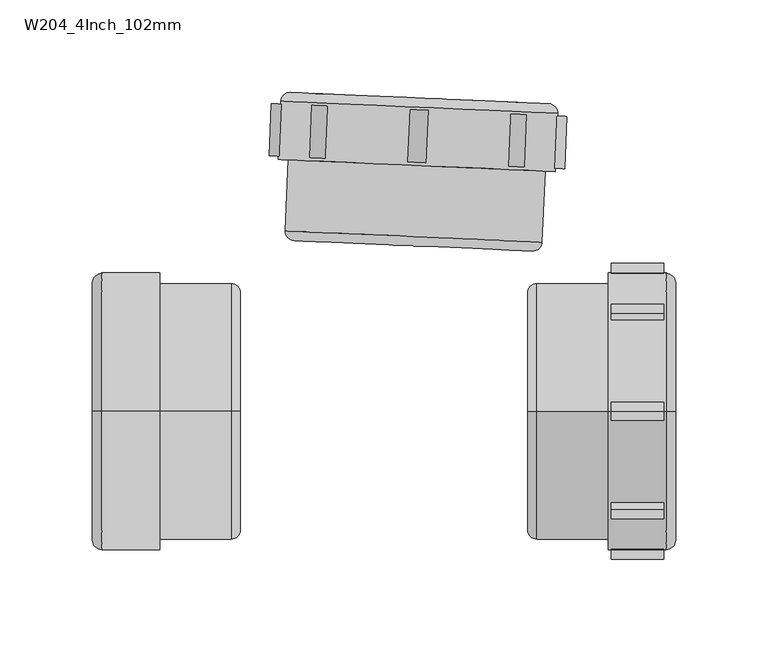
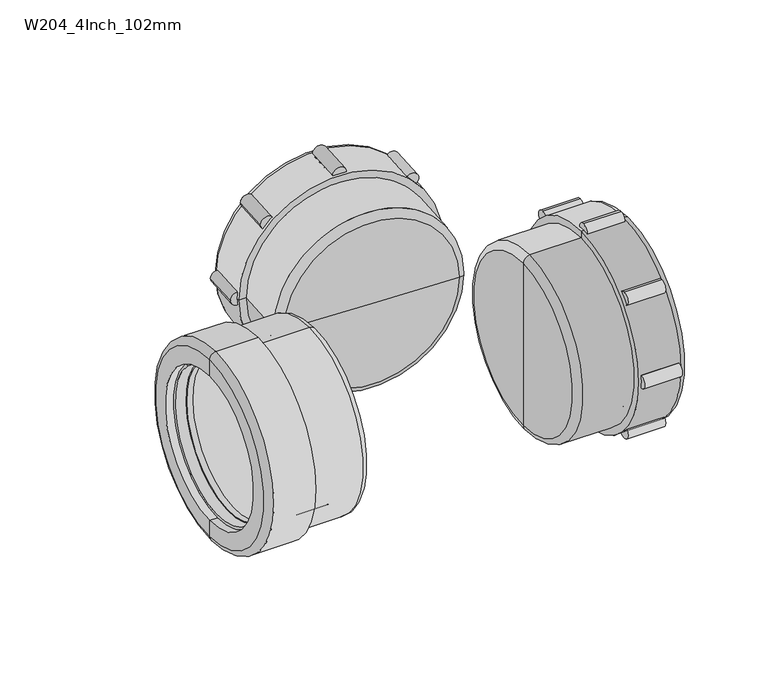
"""IFC4 building model written with IfcOpenShell, lengths in millimetres: pipe fitting geometry, Durapipe_PipeFitting_VulcatheneMechanical_92.5EqualSweepTee_W20 : W204_4Inch_102mm."""

from ifc_helpers import new_model, si_unit, point, frame, frame_2d, origin, place, context, project, spatial, polyline, circle_curve, ellipse_curve, trimmed, segment, composite_curve, outline, extrude, source, transform, mapped, element, save
from ifc_brep_helpers import plane_surface, cylinder_surface, revolved_surface, advanced_brep


def w204_4inch_102mm_7354dc11(model_context):
    return source(origin(), model_context, "Body", "SolidModel", [
        advanced_brep(
        [(-38.2277982, 165.1752117, 45.3962554), (52.4782981, 161.214898, -45.3962554), (46.4736111, 161.4770683, -39.3858477), (-32.2231111, 164.9130414, 39.3858477), (-35.7878187, 143.2479114, 42.0021428), (48.1365134, 139.5836959, -42.0021428), (-37.3973741, 106.383032, 42.0021428), (46.526958, 102.7188165, -42.0021428), (-35.7725765, 106.3120918, 40.3757972), (44.9021603, 102.7897567, -40.3757972), (-33.7660846, 152.26831, 40.3757972), (46.9086521, 148.7459749, -40.3757972), (-32.2825737, 152.2035385, 38.890873), (45.4251412, 148.8107464, -38.890873), (-32.5807901, 156.720846, 39.3858477), (46.1159321, 153.2848729, -39.3858477), (45.6214285, 153.3064634, -38.890873), (-32.0862865, 156.6992555, 38.890873)],
        [
            (0, 1, circle_curve(frame((7.12525, 163.1950548, 0.0), z_axis=(0.04361938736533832, 0.9990482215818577, 0.0), x_axis=(0.7064337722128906, -0.030843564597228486, -0.7071067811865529)), 64.2)),
            (1, 2),
            (2, 3, circle_curve(frame((7.12525, 163.1950548, 0.0), z_axis=(-0.04361938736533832, -0.9990482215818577, 0.0), x_axis=(0.7064337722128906, -0.030843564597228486, -0.7071067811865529)), 55.7)),
            (3, 0),
            (1, 0, circle_curve(frame((7.12525, 163.1950548, 0.0), z_axis=(0.04361938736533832, 0.9990482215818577, 0.0), x_axis=(0.7064337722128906, -0.030843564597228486, -0.7071067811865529)), 64.2)),
            (3, 2, circle_curve(frame((7.12525, 163.1950548, 0.0), z_axis=(-0.04361938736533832, -0.9990482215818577, 0.0), x_axis=(0.7064337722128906, -0.030843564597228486, -0.7071067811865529)), 55.7)),
            (0, 4),
            (4, 5, circle_curve(frame((6.1743473, 141.4158036, 0.0), z_axis=(0.04361938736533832, 0.9990482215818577, 0.0), x_axis=(0.7064337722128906, -0.030843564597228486, -0.7071067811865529)), 59.4)),
            (5, 1),
            (5, 4, circle_curve(frame((6.1743473, 141.4158036, 0.0), z_axis=(0.04361938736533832, 0.9990482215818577, 0.0), x_axis=(0.7064337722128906, -0.030843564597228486, -0.7071067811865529)), 59.4)),
            (6, 7, circle_curve(frame((4.5647919, 104.5509242, 0.0), z_axis=(0.04361938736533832, 0.9990482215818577, 0.0), x_axis=(0.7064337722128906, -0.030843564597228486, -0.7071067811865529)), 59.4)),
            (7, 5),
            (4, 6),
            (7, 6, circle_curve(frame((4.5647919, 104.5509242, 0.0), z_axis=(0.04361938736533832, 0.9990482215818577, 0.0), x_axis=(0.7064337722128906, -0.030843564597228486, -0.7071067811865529)), 59.4)),
            (6, 8),
            (8, 9, circle_curve(frame((4.5647919, 104.5509242, 0.0), z_axis=(0.04361938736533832, 0.9990482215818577, 0.0), x_axis=(0.7064337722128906, -0.030843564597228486, -0.7071067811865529)), 57.1)),
            (9, 7),
            (9, 8, circle_curve(frame((4.5647919, 104.5509242, 0.0), z_axis=(0.04361938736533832, 0.9990482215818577, 0.0), x_axis=(0.7064337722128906, -0.030843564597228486, -0.7071067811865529)), 57.1)),
            (8, 10),
            (10, 11, circle_curve(frame((6.5712838, 150.5071424, 0.0), z_axis=(0.04361938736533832, 0.9990482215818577, 0.0), x_axis=(0.7064337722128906, -0.030843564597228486, -0.7071067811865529)), 57.1)),
            (11, 9),
            (11, 10, circle_curve(frame((6.5712838, 150.5071424, 0.0), z_axis=(0.04361938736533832, 0.9990482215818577, 0.0), x_axis=(0.7064337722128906, -0.030843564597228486, -0.7071067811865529)), 57.1)),
            (10, 12),
            (12, 13, circle_curve(frame((6.5712838, 150.5071424, 0.0), z_axis=(0.04361938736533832, 0.9990482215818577, 0.0), x_axis=(0.7064337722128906, -0.030843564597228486, -0.7071067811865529)), 55.0)),
            (13, 11),
            (13, 12, circle_curve(frame((6.5712838, 150.5071424, 0.0), z_axis=(0.04361938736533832, 0.9990482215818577, 0.0), x_axis=(0.7064337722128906, -0.030843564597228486, -0.7071067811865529)), 55.0)),
            (14, 15, circle_curve(frame((6.767571, 155.0028594, 0.0), z_axis=(0.04361938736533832, 0.9990482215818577, 0.0), x_axis=(0.7064337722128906, -0.030843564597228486, -0.7071067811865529)), 55.7)),
            (15, 16),
            (16, 17, circle_curve(frame((6.767571, 155.0028594, 0.0), z_axis=(-0.04361938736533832, -0.9990482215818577, 0.0), x_axis=(0.7064337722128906, -0.030843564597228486, -0.7071067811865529)), 55.0)),
            (17, 14),
            (15, 14, circle_curve(frame((6.767571, 155.0028594, 0.0), z_axis=(0.04361938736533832, 0.9990482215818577, 0.0), x_axis=(0.7064337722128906, -0.030843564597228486, -0.7071067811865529)), 55.7)),
            (17, 16, circle_curve(frame((6.767571, 155.0028594, 0.0), z_axis=(-0.04361938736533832, -0.9990482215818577, 0.0), x_axis=(0.7064337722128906, -0.030843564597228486, -0.7071067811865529)), 55.0)),
            (2, 15),
            (14, 3),
            (12, 17),
            (16, 13),
        ],
        [
            plane_surface(frame((7.12525, 163.1950548, 0.0), z_axis=(0.043619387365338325, 0.9990482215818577, 0.0), x_axis=(0.7064337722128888, -0.03084356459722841, -0.7071067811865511))),
            revolved_surface(polyline([(52.4782981, 161.214898, -45.3962554), (48.1365134, 139.5836959, -42.0021428)]), (7.3433469, 168.190296, 0.0), (-0.04361938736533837, -0.999048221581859, 0.0)),
            cylinder_surface(frame((4.4744712, 102.4822393, 0.0), z_axis=(-0.04361938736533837, -0.999048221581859, 0.0), x_axis=(0.7064337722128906, -0.030843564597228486, -0.7071067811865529)), 59.4),
            plane_surface(frame((4.5647919, 104.5509242, 0.0), z_axis=(-0.043619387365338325, -0.9990482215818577, 0.0), x_axis=(0.7064337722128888, -0.03084356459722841, -0.7071067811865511))),
            revolved_surface(polyline([(44.90216031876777, 102.78975666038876, -40.37579720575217), (46.908652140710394, 148.74597492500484, -40.37579720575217)]), (4.4124298, 101.0612578, 0.0), (-0.04361938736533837, -0.999048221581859, 0.0)),
            plane_surface(frame((6.5712838, 150.5071424, 0.0), z_axis=(-0.043619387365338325, -0.9990482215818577, 0.0), x_axis=(0.7064337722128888, -0.03084356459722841, -0.7071067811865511))),
            plane_surface(frame((6.767571, 155.0028594, 0.0), z_axis=(0.043619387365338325, 0.9990482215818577, 0.0), x_axis=(0.7064337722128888, -0.03084356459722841, -0.7071067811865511))),
            revolved_surface(polyline([(46.11593209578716, 153.28487285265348, -39.385847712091), (46.47361107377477, 161.47706830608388, -39.385847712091)]), (7.3433469, 168.190296, 0.0), (-0.04361938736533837, -0.999048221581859, 0.0)),
            revolved_surface(polyline([(45.42514119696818, 148.81074635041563, -38.89087296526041), (45.62142844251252, 153.30646340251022, -38.89087296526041)]), (7.1935663, 164.7597566, 0.0), (-0.04361938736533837, -0.999048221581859, 0.0)),
        ],
        [
            (0, [[1, 2, 3, 4]]),
            (0, [[-2, 5, -4, 6]]),
            (1, [[-1, 7, 8, 9]]),
            (1, [[-5, -9, 10, -7]]),
            (2, [[11, 12, -8, 13]]),
            (2, [[-12, 14, -13, -10]]),
            (3, [[-11, 15, 16, 17]]),
            (3, [[-14, -17, 18, -15]]),
            (4, [[19, 20, 21, -16]]),
            (4, [[-19, -18, -21, 22]]),
            (5, [[-20, 23, 24, 25]]),
            (5, [[-22, -25, 26, -23]]),
            (6, [[27, 28, 29, 30]]),
            (6, [[31, -30, 32, -28]]),
            (7, [[-3, 33, -27, 34]]),
            (7, [[-6, -34, -31, -33]]),
            (8, [[35, -29, 36, -24]]),
            (8, [[-35, -26, -36, -32]]),
        ],
    ),
        advanced_brep(
        [(-69.1206721, 136.2952526, 0.0), (80.7365611, 129.7523445, 0.0), (82.1105718, 161.2223635, 0.0), (-67.7466614, 167.7652716, 0.0), (-63.6259069, 136.055346, 0.0), (75.2417959, 129.9922511, 0.0), (-62.5333234, 172.5424158, 0.0), (77.3334276, 166.4357015, 0.0), (64.8453249, 166.9809439, 0.0), (-50.0452206, 171.9971734, 0.0), (-58.8119327, 166.0739344, 0.0), (73.0624326, 160.3161753, 0.0), (70.0919523, 92.2809914, 0.0), (-61.7824129, 98.0387505, 0.0), (-50.3200228, 165.7031696, 0.0), (64.5705227, 160.6869401, 0.0), (-65.3052533, 97.5919894, 0.0), (73.5624495, 91.5288946, 0.0), (-60.5281092, 92.3786514, 0.0), (68.3491114, 86.7517504, 0.0), (3.9105011, 89.5652009, 0.0), (4.1547697, 95.159871, 0.0)],
        [
            (0, 1, circle_curve(frame((5.8079445, 133.0237986, 0.0), z_axis=(0.04361938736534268, 0.9990482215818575, 0.0), x_axis=(0.9990482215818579, -0.0436193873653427, 0.0)), 75.0)),
            (1, 2),
            (2, 3, circle_curve(frame((7.1819552, 164.4938175, 0.0), z_axis=(-0.04361938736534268, -0.9990482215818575, 0.0), x_axis=(0.9990482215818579, -0.0436193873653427, 0.0)), 75.0)),
            (3, 0),
            (1, 0, circle_curve(frame((5.8079445, 133.0237986, 0.0), z_axis=(0.04361938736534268, 0.9990482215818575, 0.0), x_axis=(0.9990482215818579, -0.0436193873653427, 0.0)), 75.0)),
            (3, 2, circle_curve(frame((7.1819552, 164.4938175, 0.0), z_axis=(-0.04361938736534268, -0.9990482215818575, 0.0), x_axis=(0.9990482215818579, -0.0436193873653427, 0.0)), 75.0)),
            (4, 5, circle_curve(frame((5.8079445, 133.0237986, 0.0), z_axis=(0.04361938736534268, 0.9990482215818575, 0.0), x_axis=(0.9990482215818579, -0.0436193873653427, 0.0)), 69.5)),
            (5, 1),
            (0, 4),
            (5, 4, circle_curve(frame((5.8079445, 133.0237986, 0.0), z_axis=(0.04361938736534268, 0.9990482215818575, 0.0), x_axis=(0.9990482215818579, -0.0436193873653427, 0.0)), 69.5)),
            (6, 7, circle_curve(frame((7.4000521, 169.4890586, 0.0), z_axis=(0.04361938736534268, 0.9990482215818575, 0.0), x_axis=(0.9990482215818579, -0.0436193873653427, 0.0)), 70.0)),
            (7, 8),
            (8, 9, circle_curve(frame((7.4000521, 169.4890586, 0.0), z_axis=(-0.04361938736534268, -0.9990482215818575, 0.0), x_axis=(0.9990482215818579, -0.0436193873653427, 0.0)), 57.5)),
            (9, 6),
            (7, 6, circle_curve(frame((7.4000521, 169.4890586, 0.0), z_axis=(0.04361938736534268, 0.9990482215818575, 0.0), x_axis=(0.9990482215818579, -0.0436193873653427, 0.0)), 70.0)),
            (9, 8, circle_curve(frame((7.4000521, 169.4890586, 0.0), z_axis=(-0.04361938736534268, -0.9990482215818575, 0.0), x_axis=(0.9990482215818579, -0.0436193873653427, 0.0)), 57.5)),
            (2, 7, circle_curve(frame((77.1153307, 161.4404604, 0.0), z_axis=(0.0, 0.0, 1.0000000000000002), x_axis=(0.04361938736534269, 0.9990482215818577, 0.0)), 5.0)),
            (6, 3, circle_curve(frame((-62.7514203, 167.5471747, 0.0), z_axis=(0.0, 0.0, 1.0000000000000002), x_axis=(0.04361938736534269, 0.9990482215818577, 0.0)), 5.0)),
            (10, 11, circle_curve(frame((7.12525, 163.1950548, 0.0), z_axis=(0.04361938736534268, 0.9990482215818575, 0.0), x_axis=(0.9990482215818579, -0.0436193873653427, 0.0)), 66.0)),
            (11, 12),
            (12, 13, circle_curve(frame((4.1547697, 95.159871, 0.0), z_axis=(-0.04361938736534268, -0.9990482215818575, 0.0), x_axis=(0.9990482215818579, -0.0436193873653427, 0.0)), 66.0)),
            (13, 10),
            (11, 10, circle_curve(frame((7.12525, 163.1950548, 0.0), z_axis=(0.04361938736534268, 0.9990482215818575, 0.0), x_axis=(0.9990482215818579, -0.0436193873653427, 0.0)), 66.0)),
            (13, 12, circle_curve(frame((4.1547697, 95.159871, 0.0), z_axis=(-0.04361938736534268, -0.9990482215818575, 0.0), x_axis=(0.9990482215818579, -0.0436193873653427, 0.0)), 66.0)),
            (14, 15, circle_curve(frame((7.12525, 163.1950548, 0.0), z_axis=(0.04361938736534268, 0.9990482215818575, 0.0), x_axis=(0.9990482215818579, -0.0436193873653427, 0.0)), 57.5)),
            (15, 11),
            (10, 14),
            (15, 14, circle_curve(frame((7.12525, 163.1950548, 0.0), z_axis=(0.04361938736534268, 0.9990482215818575, 0.0), x_axis=(0.9990482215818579, -0.0436193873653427, 0.0)), 57.5)),
            (8, 15),
            (14, 9),
            (16, 17, circle_curve(frame((4.1285981, 94.560442, 0.0), z_axis=(0.04361938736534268, 0.9990482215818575, 0.0), x_axis=(0.9990482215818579, -0.0436193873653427, 0.0)), 69.5)),
            (17, 5),
            (4, 16),
            (17, 16, circle_curve(frame((4.1285981, 94.560442, 0.0), z_axis=(0.04361938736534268, 0.9990482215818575, 0.0), x_axis=(0.9990482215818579, -0.0436193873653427, 0.0)), 69.5)),
            (18, 19, circle_curve(frame((3.9105011, 89.5652009, 0.0), z_axis=(0.04361938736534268, 0.9990482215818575, 0.0), x_axis=(0.9990482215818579, -0.0436193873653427, 0.0)), 64.5)),
            (19, 17, circle_curve(frame((68.5672084, 91.7469915, 0.0), z_axis=(0.0, 0.0, 1.0000000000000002), x_axis=(0.04361938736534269, 0.9990482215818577, 0.0)), 5.0)),
            (16, 18, circle_curve(frame((-60.3100122, 97.3738925, 0.0), z_axis=(0.0, 0.0, 1.0000000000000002), x_axis=(0.04361938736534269, 0.9990482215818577, 0.0)), 5.0)),
            (19, 18, circle_curve(frame((3.9105011, 89.5652009, 0.0), z_axis=(0.04361938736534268, 0.9990482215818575, 0.0), x_axis=(0.9990482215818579, -0.0436193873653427, 0.0)), 64.5)),
            (20, 19),
            (18, 20),
            (12, 21),
            (21, 13),
        ],
        [
            cylinder_surface(frame((75.4812712, 1728.8053395, 0.0), z_axis=(-0.04361938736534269, -0.9990482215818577, 0.0), x_axis=(0.9990482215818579, -0.0436193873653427, 0.0)), 75.0),
            plane_surface(frame((5.8079445, 133.0237986, 0.0), z_axis=(-0.04361938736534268, -0.9990482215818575, 0.0), x_axis=(0.9990482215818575, -0.04361938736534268, 0.0))),
            plane_surface(frame((7.4000521, 169.4890586, 0.0), z_axis=(0.04361938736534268, 0.9990482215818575, 0.0), x_axis=(0.9990482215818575, -0.04361938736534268, 0.0))),
            revolved_surface(trimmed(ellipse_curve(frame((77.1153307, 161.4404604, 0.0), z_axis=(0.0, 0.0, -1.0000000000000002), x_axis=(0.04361938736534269, 0.9990482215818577, 0.0)), 5.0, 5.0), [point((77.3334276, 166.4357015, 0.0))], [point((82.1105718, 161.2223635, 0.0))], True, "CARTESIAN"), (75.4812712, 1728.8053395, 0.0), (-0.04361938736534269, -0.9990482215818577, 0.0)),
            revolved_surface(polyline([(70.09195228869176, 92.28099137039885, 0.0), (73.06243257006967, 160.3161753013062, 0.0)]), (75.4812712, 1728.8053395, 0.0), (-0.04361938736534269, -0.9990482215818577, 0.0)),
            plane_surface(frame((7.12525, 163.1950548, 0.0), z_axis=(-0.04361938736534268, -0.9990482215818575, 0.0), x_axis=(0.9990482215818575, -0.04361938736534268, 0.0))),
            revolved_surface(polyline([(64.57052268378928, 160.68694002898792, 0.0), (64.8453248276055, 166.9809439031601, 0.0)]), (75.4812712, 1728.8053395, 0.0), (-0.04361938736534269, -0.9990482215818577, 0.0)),
            cylinder_surface(frame((75.4812712, 1728.8053395, 0.0), z_axis=(-0.04361938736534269, -0.9990482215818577, 0.0), x_axis=(0.9990482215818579, -0.0436193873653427, 0.0)), 69.5),
            revolved_surface(trimmed(ellipse_curve(frame((68.5672084, 91.7469915, 0.0), z_axis=(0.0, 0.0, -1.0000000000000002), x_axis=(0.04361938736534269, 0.9990482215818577, 0.0)), 5.0, 5.0), [point((73.5624495, 91.5288946, 0.0))], [point((68.3491114, 86.7517504, 0.0))], True, "CARTESIAN"), (75.4812712, 1728.8053395, 0.0), (-0.04361938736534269, -0.9990482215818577, 0.0)),
            plane_surface(frame((3.9105011, 89.5652009, 0.0), z_axis=(-0.04361938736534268, -0.9990482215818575, 0.0), x_axis=(0.9990482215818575, -0.04361938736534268, 0.0))),
            plane_surface(frame((4.1547697, 95.159871, 0.0), z_axis=(0.04361938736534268, 0.9990482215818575, 0.0), x_axis=(0.9990482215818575, -0.04361938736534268, 0.0))),
        ],
        [
            (0, [[1, 2, 3, 4]]),
            (0, [[5, -4, 6, -2]]),
            (1, [[7, 8, -1, 9]]),
            (1, [[10, -9, -5, -8]]),
            (2, [[11, 12, 13, 14]]),
            (2, [[15, -14, 16, -12]]),
            (3, [[-3, 17, -11, 18]]),
            (3, [[-6, -18, -15, -17]]),
            (4, [[19, 20, 21, 22]]),
            (4, [[23, -22, 24, -20]]),
            (5, [[25, 26, -19, 27]]),
            (5, [[28, -27, -23, -26]]),
            (6, [[-13, 29, -25, 30]]),
            (6, [[-16, -30, -28, -29]]),
            (7, [[31, 32, -7, 33]]),
            (7, [[34, -33, -10, -32]]),
            (8, [[35, 36, -31, 37]]),
            (8, [[38, -37, -34, -36]]),
            (9, [[39, -35, 40]]),
            (9, [[-40, -38, -39]]),
            (10, [[-21, 41, 42]]),
            (10, [[-24, -42, -41]]),
        ],
    ),
        extrude(outline(composite_curve([segment(trimmed(circle_curve(frame_2d((0.0, -5.0)), 5.0), [point((0.0, -10.0))], [point((0.0, 0.0))], False, "CARTESIAN"), True, "CONTINUOUS"), segment(trimmed(circle_curve(frame_2d((0.0, -5.0)), 5.0), [point((0.0, 0.0))], [point((0.0, -10.0))], False, "CARTESIAN"), True, "CONTINUOUS")], self_intersect=False)), frame((10.8817005, 134.6039884, -75.0), z_axis=(0.04361938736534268, 0.9990482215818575, 0.0), x_axis=(0.0, 0.0, 1.0)), (0.0, 0.0, 1.0), 28.2),
        extrude(outline(composite_curve([segment(trimmed(circle_curve(frame_2d((21.9669914, 48.0330086)), 5.0), [point((21.9669914, 43.0330086))], [point((21.9669914, 53.0330086))], False, "CARTESIAN"), True, "CONTINUOUS"), segment(trimmed(circle_curve(frame_2d((21.9669914, 48.0330086)), 5.0), [point((21.9669914, 53.0330086))], [point((21.9669914, 43.0330086))], False, "CARTESIAN"), True, "CONTINUOUS")], self_intersect=False)), frame((10.8817005, 134.6039884, -75.0), z_axis=(0.04361938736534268, 0.9990482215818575, 0.0), x_axis=(0.0, 0.0, 1.0)), (0.0, 0.0, 1.0), 28.2),
        extrude(outline(composite_curve([segment(trimmed(circle_curve(frame_2d((75.0, 70.0)), 5.0), [point((75.0, 65.0))], [point((75.0, 75.0))], False, "CARTESIAN"), True, "CONTINUOUS"), segment(trimmed(circle_curve(frame_2d((75.0, 70.0)), 5.0), [point((75.0, 75.0))], [point((75.0, 65.0))], False, "CARTESIAN"), True, "CONTINUOUS")], self_intersect=False)), frame((10.8817005, 134.6039884, -75.0), z_axis=(0.04361938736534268, 0.9990482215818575, 0.0), x_axis=(0.0, 0.0, 1.0)), (0.0, 0.0, 1.0), 28.2),
        extrude(outline(composite_curve([segment(trimmed(circle_curve(frame_2d((128.0330086, 48.0330086)), 5.0), [point((128.0330086, 43.0330086))], [point((128.0330086, 53.0330086))], False, "CARTESIAN"), True, "CONTINUOUS"), segment(trimmed(circle_curve(frame_2d((128.0330086, 48.0330086)), 5.0), [point((128.0330086, 53.0330086))], [point((128.0330086, 43.0330086))], False, "CARTESIAN"), True, "CONTINUOUS")], self_intersect=False)), frame((10.8817005, 134.6039884, -75.0), z_axis=(0.04361938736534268, 0.9990482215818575, 0.0), x_axis=(0.0, 0.0, 1.0)), (0.0, 0.0, 1.0), 28.2),
        extrude(outline(composite_curve([segment(trimmed(circle_curve(frame_2d((150.0, -5.0)), 5.0), [point((150.0, -10.0))], [point((150.0, 0.0))], False, "CARTESIAN"), True, "CONTINUOUS"), segment(trimmed(circle_curve(frame_2d((150.0, -5.0)), 5.0), [point((150.0, 0.0))], [point((150.0, -10.0))], False, "CARTESIAN"), True, "CONTINUOUS")], self_intersect=False)), frame((10.8817005, 134.6039884, -75.0), z_axis=(0.04361938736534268, 0.9990482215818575, 0.0), x_axis=(0.0, 0.0, 1.0)), (0.0, 0.0, 1.0), 28.2),
        extrude(outline(composite_curve([segment(trimmed(circle_curve(frame_2d((128.0330086, -58.0330086)), 5.0), [point((128.0330086, -63.0330087))], [point((128.0330086, -53.0330086))], False, "CARTESIAN"), True, "CONTINUOUS"), segment(trimmed(circle_curve(frame_2d((128.0330086, -58.0330086)), 5.0), [point((128.0330086, -53.0330086))], [point((128.0330086, -63.0330087))], False, "CARTESIAN"), True, "CONTINUOUS")], self_intersect=False)), frame((10.8817005, 134.6039884, -75.0), z_axis=(0.04361938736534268, 0.9990482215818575, 0.0), x_axis=(0.0, 0.0, 1.0)), (0.0, 0.0, 1.0), 28.2),
        extrude(outline(composite_curve([segment(trimmed(circle_curve(frame_2d((75.0, -80.0)), 5.0), [point((75.0, -85.0000001))], [point((75.0, -75.0))], False, "CARTESIAN"), True, "CONTINUOUS"), segment(trimmed(circle_curve(frame_2d((75.0, -80.0)), 5.0), [point((75.0, -75.0))], [point((75.0, -85.0000001))], False, "CARTESIAN"), True, "CONTINUOUS")], self_intersect=False)), frame((10.8817005, 134.6039884, -75.0), z_axis=(0.04361938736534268, 0.9990482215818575, 0.0), x_axis=(0.0, 0.0, 1.0)), (0.0, 0.0, 1.0), 28.2),
        extrude(outline(composite_curve([segment(trimmed(circle_curve(frame_2d((21.9669914, -58.0330086)), 5.0), [point((21.9669914, -63.0330087))], [point((21.9669914, -53.0330086))], False, "CARTESIAN"), True, "CONTINUOUS"), segment(trimmed(circle_curve(frame_2d((21.9669914, -58.0330086)), 5.0), [point((21.9669914, -53.0330086))], [point((21.9669914, -63.0330087))], False, "CARTESIAN"), True, "CONTINUOUS")], self_intersect=False)), frame((10.8817005, 134.6039884, -75.0), z_axis=(0.04361938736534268, 0.9990482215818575, 0.0), x_axis=(0.0, 0.0, 1.0)), (0.0, 0.0, 1.0), 28.2),
        advanced_brep(
        [(139.5494716, 45.3962554, -45.3962554), (139.5494716, -45.3962554, 45.3962554), (139.5494716, -39.3858477, 39.3858477), (139.5494716, 39.3858477, -39.3858477), (117.7494716, 42.0021428, -42.0021428), (117.7494716, -42.0021428, 42.0021428), (80.8494716, 42.0021428, -42.0021428), (80.8494716, -42.0021428, 42.0021428), (80.8494716, 40.3757972, -40.3757972), (80.8494716, -40.3757972, 40.3757972), (126.8494716, 40.3757972, -40.3757972), (126.8494716, -40.3757972, 40.3757972), (126.8494716, 38.890873, -38.890873), (126.8494716, -38.890873, 38.890873), (131.3494716, 39.3858477, -39.3858477), (131.3494716, -39.3858477, 39.3858477), (131.3494716, -38.890873, 38.890873), (131.3494716, 38.890873, -38.890873)],
        [
            (0, 1, circle_curve(frame((139.5494716, 0.0, 0.0), z_axis=(1.0, 0.0, 0.0), x_axis=(0.0, -0.7071067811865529, 0.7071067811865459)), 64.2)),
            (1, 2),
            (2, 3, circle_curve(frame((139.5494716, 0.0, 0.0), z_axis=(-1.0, 0.0, 0.0), x_axis=(0.0, -0.7071067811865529, 0.7071067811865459)), 55.7)),
            (3, 0),
            (1, 0, circle_curve(frame((139.5494716, 0.0, 0.0), z_axis=(1.0, 0.0, 0.0), x_axis=(0.0, -0.7071067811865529, 0.7071067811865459)), 64.2)),
            (3, 2, circle_curve(frame((139.5494716, 0.0, 0.0), z_axis=(-1.0, 0.0, 0.0), x_axis=(0.0, -0.7071067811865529, 0.7071067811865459)), 55.7)),
            (0, 4),
            (4, 5, circle_curve(frame((117.7494716, 0.0, 0.0), z_axis=(1.0, 0.0, 0.0), x_axis=(0.0, -0.7071067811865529, 0.7071067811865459)), 59.4)),
            (5, 1),
            (5, 4, circle_curve(frame((117.7494716, 0.0, 0.0), z_axis=(1.0, 0.0, 0.0), x_axis=(0.0, -0.7071067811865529, 0.7071067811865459)), 59.4)),
            (6, 7, circle_curve(frame((80.8494716, 0.0, 0.0), z_axis=(1.0, 0.0, 0.0), x_axis=(0.0, -0.7071067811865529, 0.7071067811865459)), 59.4)),
            (7, 5),
            (4, 6),
            (7, 6, circle_curve(frame((80.8494716, 0.0, 0.0), z_axis=(1.0, 0.0, 0.0), x_axis=(0.0, -0.7071067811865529, 0.7071067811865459)), 59.4)),
            (6, 8),
            (8, 9, circle_curve(frame((80.8494716, 0.0, 0.0), z_axis=(1.0, 0.0, 0.0), x_axis=(0.0, -0.7071067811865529, 0.7071067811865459)), 57.1)),
            (9, 7),
            (9, 8, circle_curve(frame((80.8494716, 0.0, 0.0), z_axis=(1.0, 0.0, 0.0), x_axis=(0.0, -0.7071067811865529, 0.7071067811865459)), 57.1)),
            (8, 10),
            (10, 11, circle_curve(frame((126.8494716, 0.0, 0.0), z_axis=(1.0, 0.0, 0.0), x_axis=(0.0, -0.7071067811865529, 0.7071067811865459)), 57.1)),
            (11, 9),
            (11, 10, circle_curve(frame((126.8494716, 0.0, 0.0), z_axis=(1.0, 0.0, 0.0), x_axis=(0.0, -0.7071067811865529, 0.7071067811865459)), 57.1)),
            (10, 12),
            (12, 13, circle_curve(frame((126.8494716, 0.0, 0.0), z_axis=(1.0, 0.0, 0.0), x_axis=(0.0, -0.7071067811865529, 0.7071067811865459)), 55.0)),
            (13, 11),
            (13, 12, circle_curve(frame((126.8494716, 0.0, 0.0), z_axis=(1.0, 0.0, 0.0), x_axis=(0.0, -0.7071067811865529, 0.7071067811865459)), 55.0)),
            (14, 15, circle_curve(frame((131.3494716, 0.0, 0.0), z_axis=(1.0, 0.0, 0.0), x_axis=(0.0, -0.7071067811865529, 0.7071067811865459)), 55.7)),
            (15, 16),
            (16, 17, circle_curve(frame((131.3494716, 0.0, 0.0), z_axis=(-1.0, 0.0, 0.0), x_axis=(0.0, -0.7071067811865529, 0.7071067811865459)), 55.0)),
            (17, 14),
            (15, 14, circle_curve(frame((131.3494716, 0.0, 0.0), z_axis=(1.0, 0.0, 0.0), x_axis=(0.0, -0.7071067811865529, 0.7071067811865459)), 55.7)),
            (17, 16, circle_curve(frame((131.3494716, 0.0, 0.0), z_axis=(-1.0, 0.0, 0.0), x_axis=(0.0, -0.7071067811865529, 0.7071067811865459)), 55.0)),
            (2, 15),
            (14, 3),
            (12, 17),
            (16, 13),
        ],
        [
            plane_surface(frame((139.5494716, 0.0, 0.0), z_axis=(1.0, 0.0, 0.0), x_axis=(0.0, -0.707106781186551, 0.707106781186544))),
            revolved_surface(polyline([(139.5494716, -45.3962554, 45.3962554), (117.7494716, -42.0021428, 42.0021428)]), (144.5494716, 0.0, 0.0), (-1.0000000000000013, 0.0, 0.0)),
            cylinder_surface(frame((78.7788159, 0.0, 0.0), z_axis=(-1.0000000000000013, 0.0, 0.0), x_axis=(0.0, -0.7071067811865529, 0.7071067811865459)), 59.4),
            plane_surface(frame((80.8494716, 0.0, 0.0), z_axis=(-1.0, 0.0, 0.0), x_axis=(0.0, -0.707106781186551, 0.707106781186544))),
            revolved_surface(polyline([(80.84947160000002, -40.37579720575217, 40.37579720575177), (126.84947160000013, -40.37579720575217, 40.37579720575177)]), (77.3564807, 0.0, 0.0), (-1.0000000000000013, 0.0, 0.0)),
            plane_surface(frame((126.8494716, 0.0, 0.0), z_axis=(-1.0, 0.0, 0.0), x_axis=(0.0, -0.707106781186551, 0.707106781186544))),
            plane_surface(frame((131.3494716, 0.0, 0.0), z_axis=(1.0, 0.0, 0.0), x_axis=(0.0, -0.707106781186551, 0.707106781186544))),
            revolved_surface(polyline([(131.34947159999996, -39.385847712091, 39.38584771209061), (139.5494716, -39.385847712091, 39.38584771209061)]), (144.5494716, 0.0, 0.0), (-1.0000000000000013, 0.0, 0.0)),
            revolved_surface(polyline([(126.84947159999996, -38.89087296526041, 38.89087296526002), (131.34947159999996, -38.89087296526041, 38.89087296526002)]), (141.1156641, 0.0, 0.0), (-1.0000000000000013, 0.0, 0.0)),
        ],
        [
            (0, [[1, 2, 3, 4]]),
            (0, [[-2, 5, -4, 6]]),
            (1, [[-1, 7, 8, 9]]),
            (1, [[-5, -9, 10, -7]]),
            (2, [[11, 12, -8, 13]]),
            (2, [[-12, 14, -13, -10]]),
            (3, [[-11, 15, 16, 17]]),
            (3, [[-14, -17, 18, -15]]),
            (4, [[19, 20, 21, -16]]),
            (4, [[-19, -18, -21, 22]]),
            (5, [[-20, 23, 24, 25]]),
            (5, [[-22, -25, 26, -23]]),
            (6, [[27, 28, 29, 30]]),
            (6, [[31, -30, 32, -28]]),
            (7, [[-3, 33, -27, 34]]),
            (7, [[-6, -34, -31, -33]]),
            (8, [[35, -29, 36, -24]]),
            (8, [[-35, -26, -36, -32]]),
        ],
    ),
        advanced_brep(
        [(109.3494716, 0.0, -75.0), (109.3494716, 0.0, 75.0), (140.8494716, 0.0, 75.0), (140.8494716, 0.0, -75.0), (109.3494716, 0.0, -69.5), (109.3494716, 0.0, 69.5), (145.8494716, 0.0, -70.0), (145.8494716, 0.0, 70.0), (145.8494716, 0.0, 57.5), (145.8494716, 0.0, -57.5), (139.5494716, 0.0, -66.0), (139.5494716, 0.0, 66.0), (71.4494716, 0.0, 66.0), (71.4494716, 0.0, -66.0), (139.5494716, 0.0, -57.5), (139.5494716, 0.0, 57.5), (70.8494716, 0.0, -69.5), (70.8494716, 0.0, 69.5), (65.8494716, 0.0, -64.5), (65.8494716, 0.0, 64.5), (65.8494716, 0.0, 0.0), (71.4494716, 0.0, 0.0)],
        [
            (0, 1, circle_curve(frame((109.3494716, 0.0, 0.0), z_axis=(1.0, 0.0, 0.0), x_axis=(0.0, 0.0, 1.0000000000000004)), 75.0)),
            (1, 2),
            (2, 3, circle_curve(frame((140.8494716, 0.0, 0.0), z_axis=(-1.0, 0.0, 0.0), x_axis=(0.0, 0.0, 1.0000000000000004)), 75.0)),
            (3, 0),
            (1, 0, circle_curve(frame((109.3494716, 0.0, 0.0), z_axis=(1.0, 0.0, 0.0), x_axis=(0.0, 0.0, 1.0000000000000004)), 75.0)),
            (3, 2, circle_curve(frame((140.8494716, 0.0, 0.0), z_axis=(-1.0, 0.0, 0.0), x_axis=(0.0, 0.0, 1.0000000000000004)), 75.0)),
            (4, 5, circle_curve(frame((109.3494716, 0.0, 0.0), z_axis=(1.0, 0.0, 0.0), x_axis=(0.0, 0.0, 1.0000000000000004)), 69.5)),
            (5, 1),
            (0, 4),
            (5, 4, circle_curve(frame((109.3494716, 0.0, 0.0), z_axis=(1.0, 0.0, 0.0), x_axis=(0.0, 0.0, 1.0000000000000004)), 69.5)),
            (6, 7, circle_curve(frame((145.8494716, 0.0, 0.0), z_axis=(1.0, 0.0, 0.0), x_axis=(0.0, 0.0, 1.0000000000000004)), 70.0)),
            (7, 8),
            (8, 9, circle_curve(frame((145.8494716, 0.0, 0.0), z_axis=(-1.0, 0.0, 0.0), x_axis=(0.0, 0.0, 1.0000000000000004)), 57.5)),
            (9, 6),
            (7, 6, circle_curve(frame((145.8494716, 0.0, 0.0), z_axis=(1.0, 0.0, 0.0), x_axis=(0.0, 0.0, 1.0000000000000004)), 70.0)),
            (9, 8, circle_curve(frame((145.8494716, 0.0, 0.0), z_axis=(-1.0, 0.0, 0.0), x_axis=(0.0, 0.0, 1.0000000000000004)), 57.5)),
            (2, 7, circle_curve(frame((140.8494716, 0.0, 70.0), z_axis=(0.0, 1.0000000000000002, 0.0), x_axis=(1.0000000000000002, 0.0, 0.0)), 5.0)),
            (6, 3, circle_curve(frame((140.8494716, 0.0, -70.0), z_axis=(0.0, 1.0000000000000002, 0.0), x_axis=(1.0000000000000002, 0.0, 0.0)), 5.0)),
            (10, 11, circle_curve(frame((139.5494716, 0.0, 0.0), z_axis=(1.0, 0.0, 0.0), x_axis=(0.0, 0.0, 1.0000000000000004)), 66.0)),
            (11, 12),
            (12, 13, circle_curve(frame((71.4494716, 0.0, 0.0), z_axis=(-1.0, 0.0, 0.0), x_axis=(0.0, 0.0, 1.0000000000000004)), 66.0)),
            (13, 10),
            (11, 10, circle_curve(frame((139.5494716, 0.0, 0.0), z_axis=(1.0, 0.0, 0.0), x_axis=(0.0, 0.0, 1.0000000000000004)), 66.0)),
            (13, 12, circle_curve(frame((71.4494716, 0.0, 0.0), z_axis=(-1.0, 0.0, 0.0), x_axis=(0.0, 0.0, 1.0000000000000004)), 66.0)),
            (14, 15, circle_curve(frame((139.5494716, 0.0, 0.0), z_axis=(1.0, 0.0, 0.0), x_axis=(0.0, 0.0, 1.0000000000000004)), 57.5)),
            (15, 11),
            (10, 14),
            (15, 14, circle_curve(frame((139.5494716, 0.0, 0.0), z_axis=(1.0, 0.0, 0.0), x_axis=(0.0, 0.0, 1.0000000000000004)), 57.5)),
            (8, 15),
            (14, 9),
            (16, 17, circle_curve(frame((70.8494716, 0.0, 0.0), z_axis=(1.0, 0.0, 0.0), x_axis=(0.0, 0.0, 1.0000000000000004)), 69.5)),
            (17, 5),
            (4, 16),
            (17, 16, circle_curve(frame((70.8494716, 0.0, 0.0), z_axis=(1.0, 0.0, 0.0), x_axis=(0.0, 0.0, 1.0000000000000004)), 69.5)),
            (18, 19, circle_curve(frame((65.8494716, 0.0, 0.0), z_axis=(1.0, 0.0, 0.0), x_axis=(0.0, 0.0, 1.0000000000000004)), 64.5)),
            (19, 17, circle_curve(frame((70.8494716, 0.0, 64.5), z_axis=(0.0, 1.0000000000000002, 0.0), x_axis=(1.0000000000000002, 0.0, 0.0)), 5.0)),
            (16, 18, circle_curve(frame((70.8494716, 0.0, -64.5), z_axis=(0.0, 1.0000000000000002, 0.0), x_axis=(1.0000000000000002, 0.0, 0.0)), 5.0)),
            (19, 18, circle_curve(frame((65.8494716, 0.0, 0.0), z_axis=(1.0, 0.0, 0.0), x_axis=(0.0, 0.0, 1.0000000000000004)), 64.5)),
            (20, 19),
            (18, 20),
            (12, 21),
            (21, 13),
        ],
        [
            cylinder_surface(frame((1706.65129, 0.0, 0.0), z_axis=(-1.0000000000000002, 0.0, 0.0), x_axis=(0.0, 0.0, 1.0000000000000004)), 75.0),
            plane_surface(frame((109.3494716, 0.0, 0.0), z_axis=(-1.0, 0.0, 0.0), x_axis=(0.0, 0.0, 1.0))),
            plane_surface(frame((145.8494716, 0.0, 0.0), z_axis=(1.0, 0.0, 0.0), x_axis=(0.0, 0.0, 1.0))),
            revolved_surface(trimmed(ellipse_curve(frame((140.8494716, 0.0, 70.0), z_axis=(0.0, -1.0000000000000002, 0.0), x_axis=(1.0000000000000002, 0.0, 0.0)), 5.0, 5.0), [point((145.8494716, 0.0, 70.0))], [point((140.8494716, 0.0, 75.0))], True, "CARTESIAN"), (1706.65129, 0.0, 0.0), (-1.0000000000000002, 0.0, 0.0)),
            revolved_surface(polyline([(71.44947159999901, 0.0, 66.00000000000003), (139.54947159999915, 0.0, 66.00000000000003)]), (1706.65129, 0.0, 0.0), (-1.0000000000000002, 0.0, 0.0)),
            plane_surface(frame((139.5494716, 0.0, 0.0), z_axis=(-1.0, 0.0, 0.0), x_axis=(0.0, 0.0, 1.0))),
            revolved_surface(polyline([(139.54947159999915, 0.0, 57.50000000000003), (145.8494715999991, 0.0, 57.50000000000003)]), (1706.65129, 0.0, 0.0), (-1.0000000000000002, 0.0, 0.0)),
            cylinder_surface(frame((1706.65129, 0.0, 0.0), z_axis=(-1.0000000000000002, 0.0, 0.0), x_axis=(0.0, 0.0, 1.0000000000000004)), 69.5),
            revolved_surface(trimmed(ellipse_curve(frame((70.8494716, 0.0, 64.5), z_axis=(0.0, -1.0000000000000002, 0.0), x_axis=(1.0000000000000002, 0.0, 0.0)), 5.0, 5.0), [point((70.8494716, 0.0, 69.5))], [point((65.8494716, 0.0, 64.5))], True, "CARTESIAN"), (1706.65129, 0.0, 0.0), (-1.0000000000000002, 0.0, 0.0)),
            plane_surface(frame((65.8494716, 0.0, 0.0), z_axis=(-1.0, 0.0, 0.0), x_axis=(0.0, 0.0, 1.0))),
            plane_surface(frame((71.4494716, 0.0, 0.0), z_axis=(1.0, 0.0, 0.0), x_axis=(0.0, 0.0, 1.0))),
        ],
        [
            (0, [[1, 2, 3, 4]]),
            (0, [[5, -4, 6, -2]]),
            (1, [[7, 8, -1, 9]]),
            (1, [[10, -9, -5, -8]]),
            (2, [[11, 12, 13, 14]]),
            (2, [[15, -14, 16, -12]]),
            (3, [[-3, 17, -11, 18]]),
            (3, [[-6, -18, -15, -17]]),
            (4, [[19, 20, 21, 22]]),
            (4, [[23, -22, 24, -20]]),
            (5, [[25, 26, -19, 27]]),
            (5, [[28, -27, -23, -26]]),
            (6, [[-13, 29, -25, 30]]),
            (6, [[-16, -30, -28, -29]]),
            (7, [[31, 32, -7, 33]]),
            (7, [[34, -33, -10, -32]]),
            (8, [[35, 36, -31, 37]]),
            (8, [[38, -37, -34, -36]]),
            (9, [[39, -35, 40]]),
            (9, [[-40, -38, -39]]),
            (10, [[-21, 41, 42]]),
            (10, [[-24, -42, -41]]),
        ],
    ),
        extrude(outline(composite_curve([segment(trimmed(circle_curve(frame_2d((-75.0, 0.0)), 5.0), [point((-75.0, -5.0))], [point((-75.0, 5.0))], False, "CARTESIAN"), True, "CONTINUOUS"), segment(trimmed(circle_curve(frame_2d((-75.0, 0.0)), 5.0), [point((-75.0, 5.0))], [point((-75.0, -5.0))], False, "CARTESIAN"), True, "CONTINUOUS")], self_intersect=False)), frame((111.1494716, 0.0, 0.0), z_axis=(1.0, 0.0, 0.0), x_axis=(0.0, 1.0, 0.0)), (0.0, 0.0, 1.0), 28.2),
        extrude(outline(composite_curve([segment(trimmed(circle_curve(frame_2d((-53.0330086, 53.0330086)), 5.0), [point((-53.0330086, 48.0330086))], [point((-53.0330086, 58.0330086))], False, "CARTESIAN"), True, "CONTINUOUS"), segment(trimmed(circle_curve(frame_2d((-53.0330086, 53.0330086)), 5.0), [point((-53.0330086, 58.0330086))], [point((-53.0330086, 48.0330086))], False, "CARTESIAN"), True, "CONTINUOUS")], self_intersect=False)), frame((111.1494716, 0.0, 0.0), z_axis=(1.0, 0.0, 0.0), x_axis=(0.0, 1.0, 0.0)), (0.0, 0.0, 1.0), 28.2),
        extrude(outline(composite_curve([segment(trimmed(circle_curve(frame_2d((0.0, 75.0)), 5.0), [point((0.0, 70.0))], [point((0.0, 80.0))], False, "CARTESIAN"), True, "CONTINUOUS"), segment(trimmed(circle_curve(frame_2d((0.0, 75.0)), 5.0), [point((0.0, 80.0))], [point((0.0, 70.0))], False, "CARTESIAN"), True, "CONTINUOUS")], self_intersect=False)), frame((111.1494716, 0.0, 0.0), z_axis=(1.0, 0.0, 0.0), x_axis=(0.0, 1.0, 0.0)), (0.0, 0.0, 1.0), 28.2),
        extrude(outline(composite_curve([segment(trimmed(circle_curve(frame_2d((53.0330086, 53.0330086)), 5.0), [point((53.0330086, 48.0330086))], [point((53.0330086, 58.0330086))], False, "CARTESIAN"), True, "CONTINUOUS"), segment(trimmed(circle_curve(frame_2d((53.0330086, 53.0330086)), 5.0), [point((53.0330086, 58.0330086))], [point((53.0330086, 48.0330086))], False, "CARTESIAN"), True, "CONTINUOUS")], self_intersect=False)), frame((111.1494716, 0.0, 0.0), z_axis=(1.0, 0.0, 0.0), x_axis=(0.0, 1.0, 0.0)), (0.0, 0.0, 1.0), 28.2),
        extrude(outline(composite_curve([segment(trimmed(circle_curve(frame_2d((75.0, 0.0)), 5.0), [point((75.0, -5.0))], [point((75.0, 5.0))], False, "CARTESIAN"), True, "CONTINUOUS"), segment(trimmed(circle_curve(frame_2d((75.0, 0.0)), 5.0), [point((75.0, 5.0))], [point((75.0, -5.0))], False, "CARTESIAN"), True, "CONTINUOUS")], self_intersect=False)), frame((111.1494716, 0.0, 0.0), z_axis=(1.0, 0.0, 0.0), x_axis=(0.0, 1.0, 0.0)), (0.0, 0.0, 1.0), 28.2),
        extrude(outline(composite_curve([segment(trimmed(circle_curve(frame_2d((53.0330086, -53.0330086)), 5.0), [point((53.0330086, -58.0330086))], [point((53.0330086, -48.0330086))], False, "CARTESIAN"), True, "CONTINUOUS"), segment(trimmed(circle_curve(frame_2d((53.0330086, -53.0330086)), 5.0), [point((53.0330086, -48.0330086))], [point((53.0330086, -58.0330086))], False, "CARTESIAN"), True, "CONTINUOUS")], self_intersect=False)), frame((111.1494716, 0.0, 0.0), z_axis=(1.0, 0.0, 0.0), x_axis=(0.0, 1.0, 0.0)), (0.0, 0.0, 1.0), 28.2),
        extrude(outline(composite_curve([segment(trimmed(circle_curve(frame_2d((0.0, -75.0)), 5.0), [point((0.0, -80.0))], [point((0.0, -70.0))], False, "CARTESIAN"), True, "CONTINUOUS"), segment(trimmed(circle_curve(frame_2d((0.0, -75.0)), 5.0), [point((0.0, -70.0))], [point((0.0, -80.0))], False, "CARTESIAN"), True, "CONTINUOUS")], self_intersect=False)), frame((111.1494716, 0.0, 0.0), z_axis=(1.0, 0.0, 0.0), x_axis=(0.0, 1.0, 0.0)), (0.0, 0.0, 1.0), 28.2),
        extrude(outline(composite_curve([segment(trimmed(circle_curve(frame_2d((-53.0330086, -53.0330086)), 5.0), [point((-53.0330086, -58.0330086))], [point((-53.0330086, -48.0330086))], False, "CARTESIAN"), True, "CONTINUOUS"), segment(trimmed(circle_curve(frame_2d((-53.0330086, -53.0330086)), 5.0), [point((-53.0330086, -48.0330086))], [point((-53.0330086, -58.0330086))], False, "CARTESIAN"), True, "CONTINUOUS")], self_intersect=False)), frame((111.1494716, 0.0, 0.0), z_axis=(1.0, 0.0, 0.0), x_axis=(0.0, 1.0, 0.0)), (0.0, 0.0, 1.0), 28.2),
        advanced_brep(
        [(-163.3505284, -45.3962554, -45.3962554), (-163.3505284, 45.3962554, 45.3962554), (-163.3505284, 39.3858477, 39.3858477), (-163.3505284, -39.3858477, -39.3858477), (-141.5505284, -42.0021428, -42.0021428), (-141.5505284, 42.0021428, 42.0021428), (-104.6505284, -42.0021428, -42.0021428), (-104.6505284, 42.0021428, 42.0021428), (-104.6505284, -40.3757972, -40.3757972), (-104.6505284, 40.3757972, 40.3757972), (-150.6505284, -40.3757972, -40.3757972), (-150.6505284, 40.3757972, 40.3757972), (-150.6505284, -38.890873, -38.890873), (-150.6505284, 38.890873, 38.890873), (-155.1505284, -39.3858477, -39.3858477), (-155.1505284, 39.3858477, 39.3858477), (-155.1505284, 38.890873, 38.890873), (-155.1505284, -38.890873, -38.890873)],
        [
            (0, 1, circle_curve(frame((-163.3505284, 0.0, 0.0), z_axis=(-1.0, 0.0, 0.0), x_axis=(0.0, 0.7071067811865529, 0.7071067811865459)), 64.2)),
            (1, 2),
            (2, 3, circle_curve(frame((-163.3505284, 0.0, 0.0), z_axis=(1.0, 0.0, 0.0), x_axis=(0.0, 0.7071067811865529, 0.7071067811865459)), 55.7)),
            (3, 0),
            (1, 0, circle_curve(frame((-163.3505284, 0.0, 0.0), z_axis=(-1.0, 0.0, 0.0), x_axis=(0.0, 0.7071067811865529, 0.7071067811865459)), 64.2)),
            (3, 2, circle_curve(frame((-163.3505284, 0.0, 0.0), z_axis=(1.0, 0.0, 0.0), x_axis=(0.0, 0.7071067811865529, 0.7071067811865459)), 55.7)),
            (0, 4),
            (4, 5, circle_curve(frame((-141.5505284, 0.0, 0.0), z_axis=(-1.0, 0.0, 0.0), x_axis=(0.0, 0.7071067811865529, 0.7071067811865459)), 59.4)),
            (5, 1),
            (5, 4, circle_curve(frame((-141.5505284, 0.0, 0.0), z_axis=(-1.0, 0.0, 0.0), x_axis=(0.0, 0.7071067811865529, 0.7071067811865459)), 59.4)),
            (6, 7, circle_curve(frame((-104.6505284, 0.0, 0.0), z_axis=(-1.0, 0.0, 0.0), x_axis=(0.0, 0.7071067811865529, 0.7071067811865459)), 59.4)),
            (7, 5),
            (4, 6),
            (7, 6, circle_curve(frame((-104.6505284, 0.0, 0.0), z_axis=(-1.0, 0.0, 0.0), x_axis=(0.0, 0.7071067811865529, 0.7071067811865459)), 59.4)),
            (6, 8),
            (8, 9, circle_curve(frame((-104.6505284, 0.0, 0.0), z_axis=(-1.0, 0.0, 0.0), x_axis=(0.0, 0.7071067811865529, 0.7071067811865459)), 57.1)),
            (9, 7),
            (9, 8, circle_curve(frame((-104.6505284, 0.0, 0.0), z_axis=(-1.0, 0.0, 0.0), x_axis=(0.0, 0.7071067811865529, 0.7071067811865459)), 57.1)),
            (8, 10),
            (10, 11, circle_curve(frame((-150.6505284, 0.0, 0.0), z_axis=(-1.0, 0.0, 0.0), x_axis=(0.0, 0.7071067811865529, 0.7071067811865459)), 57.1)),
            (11, 9),
            (11, 10, circle_curve(frame((-150.6505284, 0.0, 0.0), z_axis=(-1.0, 0.0, 0.0), x_axis=(0.0, 0.7071067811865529, 0.7071067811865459)), 57.1)),
            (10, 12),
            (12, 13, circle_curve(frame((-150.6505284, 0.0, 0.0), z_axis=(-1.0, 0.0, 0.0), x_axis=(0.0, 0.7071067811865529, 0.7071067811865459)), 55.0)),
            (13, 11),
            (13, 12, circle_curve(frame((-150.6505284, 0.0, 0.0), z_axis=(-1.0, 0.0, 0.0), x_axis=(0.0, 0.7071067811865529, 0.7071067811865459)), 55.0)),
            (14, 15, circle_curve(frame((-155.1505284, 0.0, 0.0), z_axis=(-1.0, 0.0, 0.0), x_axis=(0.0, 0.7071067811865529, 0.7071067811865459)), 55.7)),
            (15, 16),
            (16, 17, circle_curve(frame((-155.1505284, 0.0, 0.0), z_axis=(1.0, 0.0, 0.0), x_axis=(0.0, 0.7071067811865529, 0.7071067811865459)), 55.0)),
            (17, 14),
            (15, 14, circle_curve(frame((-155.1505284, 0.0, 0.0), z_axis=(-1.0, 0.0, 0.0), x_axis=(0.0, 0.7071067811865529, 0.7071067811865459)), 55.7)),
            (17, 16, circle_curve(frame((-155.1505284, 0.0, 0.0), z_axis=(1.0, 0.0, 0.0), x_axis=(0.0, 0.7071067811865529, 0.7071067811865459)), 55.0)),
            (2, 15),
            (14, 3),
            (12, 17),
            (16, 13),
        ],
        [
            plane_surface(frame((-163.3505284, 0.0, 0.0), z_axis=(-1.0, 0.0, 0.0), x_axis=(0.0, 0.707106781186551, 0.707106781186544))),
            revolved_surface(polyline([(-163.3505284, 45.3962554, 45.3962554), (-141.5505284, 42.0021428, 42.0021428)]), (-168.3505284, 0.0, 0.0), (1.0000000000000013, 0.0, 0.0)),
            cylinder_surface(frame((-102.5798726, 0.0, 0.0), z_axis=(1.0000000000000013, 0.0, 0.0), x_axis=(0.0, 0.7071067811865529, 0.7071067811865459)), 59.4),
            plane_surface(frame((-104.6505284, 0.0, 0.0), z_axis=(1.0, 0.0, 0.0), x_axis=(0.0, 0.707106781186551, 0.707106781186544))),
            revolved_surface(polyline([(-104.65052840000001, 40.37579720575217, 40.37579720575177), (-150.65052840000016, 40.37579720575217, 40.37579720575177)]), (-101.1575374, 0.0, 0.0), (1.0000000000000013, 0.0, 0.0)),
            plane_surface(frame((-150.6505284, 0.0, 0.0), z_axis=(1.0, 0.0, 0.0), x_axis=(0.0, 0.707106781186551, 0.707106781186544))),
            plane_surface(frame((-155.1505284, 0.0, 0.0), z_axis=(-1.0, 0.0, 0.0), x_axis=(0.0, 0.707106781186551, 0.707106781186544))),
            revolved_surface(polyline([(-155.15052839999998, 39.385847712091, 39.38584771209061), (-163.35052839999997, 39.385847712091, 39.38584771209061)]), (-168.3505284, 0.0, 0.0), (1.0000000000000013, 0.0, 0.0)),
            revolved_surface(polyline([(-150.65052839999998, 38.89087296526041, 38.89087296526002), (-155.15052839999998, 38.89087296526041, 38.89087296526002)]), (-164.9167208, 0.0, 0.0), (1.0000000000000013, 0.0, 0.0)),
        ],
        [
            (0, [[1, 2, 3, 4]]),
            (0, [[-2, 5, -4, 6]]),
            (1, [[-1, 7, 8, 9]]),
            (1, [[-5, -9, 10, -7]]),
            (2, [[11, 12, -8, 13]]),
            (2, [[-12, 14, -13, -10]]),
            (3, [[-11, 15, 16, 17]]),
            (3, [[-14, -17, 18, -15]]),
            (4, [[19, 20, 21, -16]]),
            (4, [[-19, -18, -21, 22]]),
            (5, [[-20, 23, 24, 25]]),
            (5, [[-22, -25, 26, -23]]),
            (6, [[27, 28, 29, 30]]),
            (6, [[31, -30, 32, -28]]),
            (7, [[-3, 33, -27, 34]]),
            (7, [[-6, -34, -31, -33]]),
            (8, [[35, -29, 36, -24]]),
            (8, [[-35, -26, -36, -32]]),
        ],
    ),
        advanced_brep(
        [(-133.1505284, 0.0, -75.0), (-133.1505284, 0.0, 75.0), (-164.6505284, 0.0, 75.0), (-164.6505284, 0.0, -75.0), (-133.1505284, 0.0, -69.5), (-133.1505284, 0.0, 69.5), (-169.6505284, 0.0, -70.0), (-169.6505284, 0.0, 70.0), (-169.6505284, 0.0, 57.5), (-169.6505284, 0.0, -57.5), (-163.3505284, 0.0, -66.0), (-163.3505284, 0.0, 66.0), (-95.2505284, 0.0, 66.0), (-95.2505284, 0.0, -66.0), (-163.3505284, 0.0, -57.5), (-163.3505284, 0.0, 57.5), (-94.6505284, 0.0, -69.5), (-94.6505284, 0.0, 69.5), (-89.6505284, 0.0, -64.5), (-89.6505284, 0.0, 64.5), (-89.6505284, 0.0, 0.0), (-95.2505284, 0.0, 0.0)],
        [
            (0, 1, circle_curve(frame((-133.1505284, 0.0, 0.0), z_axis=(-1.0, 0.0, 0.0), x_axis=(0.0, 0.0, 1.0000000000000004)), 75.0)),
            (1, 2),
            (2, 3, circle_curve(frame((-164.6505284, 0.0, 0.0), z_axis=(1.0, 0.0, 0.0), x_axis=(0.0, 0.0, 1.0000000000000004)), 75.0)),
            (3, 0),
            (1, 0, circle_curve(frame((-133.1505284, 0.0, 0.0), z_axis=(-1.0, 0.0, 0.0), x_axis=(0.0, 0.0, 1.0000000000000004)), 75.0)),
            (3, 2, circle_curve(frame((-164.6505284, 0.0, 0.0), z_axis=(1.0, 0.0, 0.0), x_axis=(0.0, 0.0, 1.0000000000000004)), 75.0)),
            (4, 5, circle_curve(frame((-133.1505284, 0.0, 0.0), z_axis=(-1.0, 0.0, 0.0), x_axis=(0.0, 0.0, 1.0000000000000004)), 69.5)),
            (5, 1),
            (0, 4),
            (5, 4, circle_curve(frame((-133.1505284, 0.0, 0.0), z_axis=(-1.0, 0.0, 0.0), x_axis=(0.0, 0.0, 1.0000000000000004)), 69.5)),
            (6, 7, circle_curve(frame((-169.6505284, 0.0, 0.0), z_axis=(-1.0, 0.0, 0.0), x_axis=(0.0, 0.0, 1.0000000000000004)), 70.0)),
            (7, 8),
            (8, 9, circle_curve(frame((-169.6505284, 0.0, 0.0), z_axis=(1.0, 0.0, 0.0), x_axis=(0.0, 0.0, 1.0000000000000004)), 57.5)),
            (9, 6),
            (7, 6, circle_curve(frame((-169.6505284, 0.0, 0.0), z_axis=(-1.0, 0.0, 0.0), x_axis=(0.0, 0.0, 1.0000000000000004)), 70.0)),
            (9, 8, circle_curve(frame((-169.6505284, 0.0, 0.0), z_axis=(1.0, 0.0, 0.0), x_axis=(0.0, 0.0, 1.0000000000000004)), 57.5)),
            (2, 7, circle_curve(frame((-164.6505284, 0.0, 70.0), z_axis=(0.0, -1.0000000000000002, 0.0), x_axis=(-1.0000000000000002, 0.0, 0.0)), 5.0)),
            (6, 3, circle_curve(frame((-164.6505284, 0.0, -70.0), z_axis=(0.0, -1.0000000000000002, 0.0), x_axis=(-1.0000000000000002, 0.0, 0.0)), 5.0)),
            (10, 11, circle_curve(frame((-163.3505284, 0.0, 0.0), z_axis=(-1.0, 0.0, 0.0), x_axis=(0.0, 0.0, 1.0000000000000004)), 66.0)),
            (11, 12),
            (12, 13, circle_curve(frame((-95.2505284, 0.0, 0.0), z_axis=(1.0, 0.0, 0.0), x_axis=(0.0, 0.0, 1.0000000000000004)), 66.0)),
            (13, 10),
            (11, 10, circle_curve(frame((-163.3505284, 0.0, 0.0), z_axis=(-1.0, 0.0, 0.0), x_axis=(0.0, 0.0, 1.0000000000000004)), 66.0)),
            (13, 12, circle_curve(frame((-95.2505284, 0.0, 0.0), z_axis=(1.0, 0.0, 0.0), x_axis=(0.0, 0.0, 1.0000000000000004)), 66.0)),
            (14, 15, circle_curve(frame((-163.3505284, 0.0, 0.0), z_axis=(-1.0, 0.0, 0.0), x_axis=(0.0, 0.0, 1.0000000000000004)), 57.5)),
            (15, 11),
            (10, 14),
            (15, 14, circle_curve(frame((-163.3505284, 0.0, 0.0), z_axis=(-1.0, 0.0, 0.0), x_axis=(0.0, 0.0, 1.0000000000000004)), 57.5)),
            (8, 15),
            (14, 9),
            (16, 17, circle_curve(frame((-94.6505284, 0.0, 0.0), z_axis=(-1.0, 0.0, 0.0), x_axis=(0.0, 0.0, 1.0000000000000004)), 69.5)),
            (17, 5),
            (4, 16),
            (17, 16, circle_curve(frame((-94.6505284, 0.0, 0.0), z_axis=(-1.0, 0.0, 0.0), x_axis=(0.0, 0.0, 1.0000000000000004)), 69.5)),
            (18, 19, circle_curve(frame((-89.6505284, 0.0, 0.0), z_axis=(-1.0, 0.0, 0.0), x_axis=(0.0, 0.0, 1.0000000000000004)), 64.5)),
            (19, 17, circle_curve(frame((-94.6505284, 0.0, 64.5), z_axis=(0.0, -1.0000000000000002, 0.0), x_axis=(-1.0000000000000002, 0.0, 0.0)), 5.0)),
            (16, 18, circle_curve(frame((-94.6505284, 0.0, -64.5), z_axis=(0.0, -1.0000000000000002, 0.0), x_axis=(-1.0000000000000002, 0.0, 0.0)), 5.0)),
            (19, 18, circle_curve(frame((-89.6505284, 0.0, 0.0), z_axis=(-1.0, 0.0, 0.0), x_axis=(0.0, 0.0, 1.0000000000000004)), 64.5)),
            (20, 19),
            (18, 20),
            (12, 21),
            (21, 13),
        ],
        [
            cylinder_surface(frame((-1730.4523467, 0.0, 0.0), z_axis=(1.0000000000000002, 0.0, 0.0), x_axis=(0.0, 0.0, 1.0000000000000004)), 75.0),
            plane_surface(frame((-133.1505284, 0.0, 0.0), z_axis=(1.0, 0.0, 0.0), x_axis=(0.0, 0.0, 1.0))),
            plane_surface(frame((-169.6505284, 0.0, 0.0), z_axis=(-1.0, 0.0, 0.0), x_axis=(0.0, 0.0, 1.0))),
            revolved_surface(trimmed(ellipse_curve(frame((-164.6505284, 0.0, 70.0), z_axis=(0.0, 1.0000000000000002, 0.0), x_axis=(-1.0000000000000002, 0.0, 0.0)), 5.0, 5.0), [point((-169.6505284, 0.0, 70.0))], [point((-164.6505284, 0.0, 75.0))], True, "CARTESIAN"), (-1730.4523467, 0.0, 0.0), (1.0000000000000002, 0.0, 0.0)),
            revolved_surface(polyline([(-95.25052839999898, 0.0, 66.00000000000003), (-163.35052839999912, 0.0, 66.00000000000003)]), (-1730.4523467, 0.0, 0.0), (1.0000000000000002, 0.0, 0.0)),
            plane_surface(frame((-163.3505284, 0.0, 0.0), z_axis=(1.0, 0.0, 0.0), x_axis=(0.0, 0.0, 1.0))),
            revolved_surface(polyline([(-163.35052839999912, 0.0, 57.50000000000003), (-169.65052839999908, 0.0, 57.50000000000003)]), (-1730.4523467, 0.0, 0.0), (1.0000000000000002, 0.0, 0.0)),
            cylinder_surface(frame((-1730.4523467, 0.0, 0.0), z_axis=(1.0000000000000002, 0.0, 0.0), x_axis=(0.0, 0.0, 1.0000000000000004)), 69.5),
            revolved_surface(trimmed(ellipse_curve(frame((-94.6505284, 0.0, 64.5), z_axis=(0.0, 1.0000000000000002, 0.0), x_axis=(-1.0000000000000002, 0.0, 0.0)), 5.0, 5.0), [point((-94.6505284, 0.0, 69.5))], [point((-89.6505284, 0.0, 64.5))], True, "CARTESIAN"), (-1730.4523467, 0.0, 0.0), (1.0000000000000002, 0.0, 0.0)),
            plane_surface(frame((-89.6505284, 0.0, 0.0), z_axis=(1.0, 0.0, 0.0), x_axis=(0.0, 0.0, 1.0))),
            plane_surface(frame((-95.2505284, 0.0, 0.0), z_axis=(-1.0, 0.0, 0.0), x_axis=(0.0, 0.0, 1.0))),
        ],
        [
            (0, [[1, 2, 3, 4]]),
            (0, [[5, -4, 6, -2]]),
            (1, [[7, 8, -1, 9]]),
            (1, [[10, -9, -5, -8]]),
            (2, [[11, 12, 13, 14]]),
            (2, [[15, -14, 16, -12]]),
            (3, [[-3, 17, -11, 18]]),
            (3, [[-6, -18, -15, -17]]),
            (4, [[19, 20, 21, 22]]),
            (4, [[23, -22, 24, -20]]),
            (5, [[25, 26, -19, 27]]),
            (5, [[28, -27, -23, -26]]),
            (6, [[-13, 29, -25, 30]]),
            (6, [[-16, -30, -28, -29]]),
            (7, [[31, 32, -7, 33]]),
            (7, [[34, -33, -10, -32]]),
            (8, [[35, 36, -31, 37]]),
            (8, [[38, -37, -34, -36]]),
            (9, [[39, -35, 40]]),
            (9, [[-40, -38, -39]]),
            (10, [[-21, 41, 42]]),
            (10, [[-24, -42, -41]]),
        ],
    ),
    ])


if __name__ == "__main__":
    model = new_model("IFC4")
    model_context = context("Model", 3, world=origin())
    ifc_project = project(units=[si_unit("LENGTHUNIT", "METRE", prefix="MILLI")], contexts=[model_context])
    site = spatial("IfcSite", under=ifc_project)
    building = spatial("IfcBuilding", under=site)
    placement = place(None, origin())
    w204_4inch_102mm_shape = w204_4inch_102mm_7354dc11(model_context)
    element("IfcPipeFitting", 1, ObjectType="Durapipe_PipeFitting_VulcatheneMechanical_92.5EqualSweepTee_W20 : W204_4Inch_102mm", at=placement, inside=building, context=model_context, shape_type="MappedRepresentation", body=[
        mapped(w204_4inch_102mm_shape, transform((0.0, 0.0, 0.0), x_axis=(1.0, 0.0, 0.0), y_axis=(0.0, 1.0, 0.0), z_axis=(0.0, 0.0, 1.0))),
    ])
    save(model, "model.ifc")
